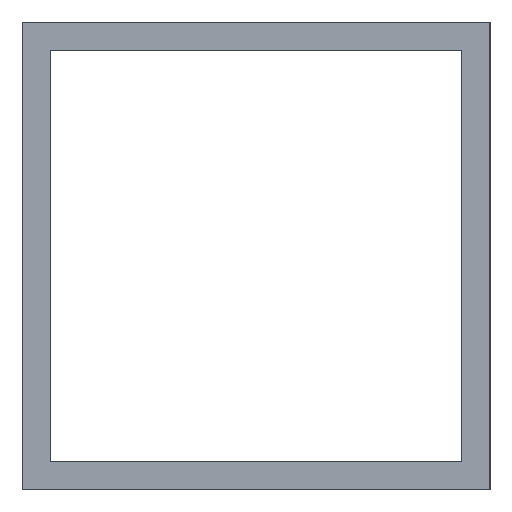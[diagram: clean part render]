
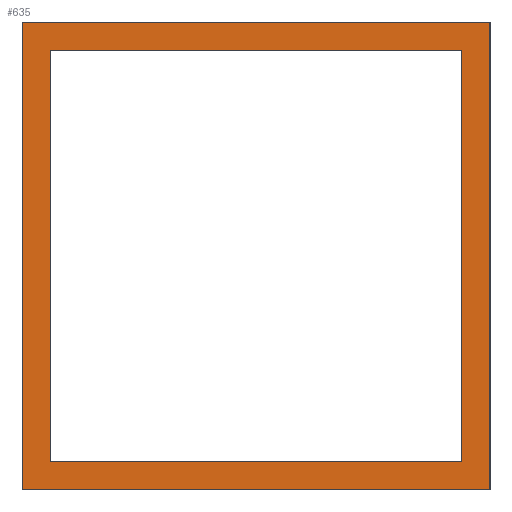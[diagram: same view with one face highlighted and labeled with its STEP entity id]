
A CAD part, left-side view. The second image highlights one B-rep face of the part: STEP entity #635.
In plain terms, the highlighted planar face has unit normal (-1, 0, 0).
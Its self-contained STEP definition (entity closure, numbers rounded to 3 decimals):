
#22 = VERTEX_POINT('',#23);
#23 = CARTESIAN_POINT('',(-800.,-50.,1185.));
#32 = PLANE('',#33);
#33 = AXIS2_PLACEMENT_3D('',#34,#35,#36);
#34 = CARTESIAN_POINT('',(-800.,-50.,1185.));
#35 = DIRECTION('',(0.,0.,1.));
#36 = DIRECTION('',(0.,1.,0.));
#44 = PLANE('',#45);
#45 = AXIS2_PLACEMENT_3D('',#46,#47,#48);
#46 = CARTESIAN_POINT('',(-800.,-50.,1285.));
#47 = DIRECTION('',(-0.,1.,0.));
#48 = DIRECTION('',(0.,0.,-1.));
#85 = VERTEX_POINT('',#86);
#86 = CARTESIAN_POINT('',(-800.,50.,1185.));
#100 = PLANE('',#101);
#101 = AXIS2_PLACEMENT_3D('',#102,#103,#104);
#102 = CARTESIAN_POINT('',(-800.,50.,1185.));
#103 = DIRECTION('',(0.,-1.,0.));
#104 = DIRECTION('',(0.,0.,1.));
#112 = EDGE_CURVE('',#22,#85,#113,.T.);
#113 = SURFACE_CURVE('',#114,(#118,#125),.PCURVE_S1.);
#114 = LINE('',#115,#116);
#115 = CARTESIAN_POINT('',(-800.,-50.,1185.));
#116 = VECTOR('',#117,1.);
#117 = DIRECTION('',(0.,1.,0.));
#118 = PCURVE('',#32,#119);
#119 = DEFINITIONAL_REPRESENTATION('',(#120),#124);
#120 = LINE('',#121,#122);
#121 = CARTESIAN_POINT('',(0.,0.));
#122 = VECTOR('',#123,1.);
#123 = DIRECTION('',(1.,0.));
#124 = ( GEOMETRIC_REPRESENTATION_CONTEXT(2) 
PARAMETRIC_REPRESENTATION_CONTEXT() REPRESENTATION_CONTEXT('2D SPACE',''
  ) );
#125 = PCURVE('',#126,#131);
#126 = PLANE('',#127);
#127 = AXIS2_PLACEMENT_3D('',#128,#129,#130);
#128 = CARTESIAN_POINT('',(-800.,0.,1235.));
#129 = DIRECTION('',(1.,0.,0.));
#130 = DIRECTION('',(-0.,0.,1.));
#131 = DEFINITIONAL_REPRESENTATION('',(#132),#136);
#132 = LINE('',#133,#134);
#133 = CARTESIAN_POINT('',(-50.,50.));
#134 = VECTOR('',#135,1.);
#135 = DIRECTION('',(0.,-1.));
#136 = ( GEOMETRIC_REPRESENTATION_CONTEXT(2) 
PARAMETRIC_REPRESENTATION_CONTEXT() REPRESENTATION_CONTEXT('2D SPACE',''
  ) );
#166 = VERTEX_POINT('',#167);
#167 = CARTESIAN_POINT('',(-800.,50.,1285.));
#181 = PLANE('',#182);
#182 = AXIS2_PLACEMENT_3D('',#183,#184,#185);
#183 = CARTESIAN_POINT('',(-800.,50.,1285.));
#184 = DIRECTION('',(0.,0.,-1.));
#185 = DIRECTION('',(0.,-1.,0.));
#193 = EDGE_CURVE('',#85,#166,#194,.T.);
#194 = SURFACE_CURVE('',#195,(#199,#206),.PCURVE_S1.);
#195 = LINE('',#196,#197);
#196 = CARTESIAN_POINT('',(-800.,50.,1185.));
#197 = VECTOR('',#198,1.);
#198 = DIRECTION('',(0.,0.,1.));
#199 = PCURVE('',#100,#200);
#200 = DEFINITIONAL_REPRESENTATION('',(#201),#205);
#201 = LINE('',#202,#203);
#202 = CARTESIAN_POINT('',(0.,0.));
#203 = VECTOR('',#204,1.);
#204 = DIRECTION('',(1.,0.));
#205 = ( GEOMETRIC_REPRESENTATION_CONTEXT(2) 
PARAMETRIC_REPRESENTATION_CONTEXT() REPRESENTATION_CONTEXT('2D SPACE',''
  ) );
#206 = PCURVE('',#126,#207);
#207 = DEFINITIONAL_REPRESENTATION('',(#208),#212);
#208 = LINE('',#209,#210);
#209 = CARTESIAN_POINT('',(-50.,-50.));
#210 = VECTOR('',#211,1.);
#211 = DIRECTION('',(1.,0.));
#212 = ( GEOMETRIC_REPRESENTATION_CONTEXT(2) 
PARAMETRIC_REPRESENTATION_CONTEXT() REPRESENTATION_CONTEXT('2D SPACE',''
  ) );
#242 = VERTEX_POINT('',#243);
#243 = CARTESIAN_POINT('',(-800.,-50.,1285.));
#264 = EDGE_CURVE('',#166,#242,#265,.T.);
#265 = SURFACE_CURVE('',#266,(#270,#277),.PCURVE_S1.);
#266 = LINE('',#267,#268);
#267 = CARTESIAN_POINT('',(-800.,50.,1285.));
#268 = VECTOR('',#269,1.);
#269 = DIRECTION('',(0.,-1.,0.));
#270 = PCURVE('',#181,#271);
#271 = DEFINITIONAL_REPRESENTATION('',(#272),#276);
#272 = LINE('',#273,#274);
#273 = CARTESIAN_POINT('',(0.,-0.));
#274 = VECTOR('',#275,1.);
#275 = DIRECTION('',(1.,0.));
#276 = ( GEOMETRIC_REPRESENTATION_CONTEXT(2) 
PARAMETRIC_REPRESENTATION_CONTEXT() REPRESENTATION_CONTEXT('2D SPACE',''
  ) );
#277 = PCURVE('',#126,#278);
#278 = DEFINITIONAL_REPRESENTATION('',(#279),#283);
#279 = LINE('',#280,#281);
#280 = CARTESIAN_POINT('',(50.,-50.));
#281 = VECTOR('',#282,1.);
#282 = DIRECTION('',(0.,1.));
#283 = ( GEOMETRIC_REPRESENTATION_CONTEXT(2) 
PARAMETRIC_REPRESENTATION_CONTEXT() REPRESENTATION_CONTEXT('2D SPACE',''
  ) );
#311 = EDGE_CURVE('',#242,#22,#312,.T.);
#312 = SURFACE_CURVE('',#313,(#317,#324),.PCURVE_S1.);
#313 = LINE('',#314,#315);
#314 = CARTESIAN_POINT('',(-800.,-50.,1285.));
#315 = VECTOR('',#316,1.);
#316 = DIRECTION('',(0.,0.,-1.));
#317 = PCURVE('',#44,#318);
#318 = DEFINITIONAL_REPRESENTATION('',(#319),#323);
#319 = LINE('',#320,#321);
#320 = CARTESIAN_POINT('',(0.,0.));
#321 = VECTOR('',#322,1.);
#322 = DIRECTION('',(1.,0.));
#323 = ( GEOMETRIC_REPRESENTATION_CONTEXT(2) 
PARAMETRIC_REPRESENTATION_CONTEXT() REPRESENTATION_CONTEXT('2D SPACE',''
  ) );
#324 = PCURVE('',#126,#325);
#325 = DEFINITIONAL_REPRESENTATION('',(#326),#330);
#326 = LINE('',#327,#328);
#327 = CARTESIAN_POINT('',(50.,50.));
#328 = VECTOR('',#329,1.);
#329 = DIRECTION('',(-1.,0.));
#330 = ( GEOMETRIC_REPRESENTATION_CONTEXT(2) 
PARAMETRIC_REPRESENTATION_CONTEXT() REPRESENTATION_CONTEXT('2D SPACE',''
  ) );
#336 = VERTEX_POINT('',#337);
#337 = CARTESIAN_POINT('',(-800.,-44.,1279.));
#346 = PLANE('',#347);
#347 = AXIS2_PLACEMENT_3D('',#348,#349,#350);
#348 = CARTESIAN_POINT('',(-800.,-44.,1279.));
#349 = DIRECTION('',(-0.,1.,0.));
#350 = DIRECTION('',(0.,0.,-1.));
#358 = PLANE('',#359);
#359 = AXIS2_PLACEMENT_3D('',#360,#361,#362);
#360 = CARTESIAN_POINT('',(-800.,44.,1279.));
#361 = DIRECTION('',(0.,0.,-1.));
#362 = DIRECTION('',(0.,-1.,0.));
#394 = VERTEX_POINT('',#395);
#395 = CARTESIAN_POINT('',(-800.,-44.,1191.));
#409 = PLANE('',#410);
#410 = AXIS2_PLACEMENT_3D('',#411,#412,#413);
#411 = CARTESIAN_POINT('',(-800.,-44.,1191.));
#412 = DIRECTION('',(0.,0.,1.));
#413 = DIRECTION('',(0.,1.,0.));
#421 = EDGE_CURVE('',#336,#394,#422,.T.);
#422 = SURFACE_CURVE('',#423,(#427,#434),.PCURVE_S1.);
#423 = LINE('',#424,#425);
#424 = CARTESIAN_POINT('',(-800.,-44.,1279.));
#425 = VECTOR('',#426,1.);
#426 = DIRECTION('',(0.,0.,-1.));
#427 = PCURVE('',#346,#428);
#428 = DEFINITIONAL_REPRESENTATION('',(#429),#433);
#429 = LINE('',#430,#431);
#430 = CARTESIAN_POINT('',(0.,0.));
#431 = VECTOR('',#432,1.);
#432 = DIRECTION('',(1.,0.));
#433 = ( GEOMETRIC_REPRESENTATION_CONTEXT(2) 
PARAMETRIC_REPRESENTATION_CONTEXT() REPRESENTATION_CONTEXT('2D SPACE',''
  ) );
#434 = PCURVE('',#126,#435);
#435 = DEFINITIONAL_REPRESENTATION('',(#436),#440);
#436 = LINE('',#437,#438);
#437 = CARTESIAN_POINT('',(44.,44.));
#438 = VECTOR('',#439,1.);
#439 = DIRECTION('',(-1.,0.));
#440 = ( GEOMETRIC_REPRESENTATION_CONTEXT(2) 
PARAMETRIC_REPRESENTATION_CONTEXT() REPRESENTATION_CONTEXT('2D SPACE',''
  ) );
#446 = VERTEX_POINT('',#447);
#447 = CARTESIAN_POINT('',(-800.,44.,1279.));
#463 = PLANE('',#464);
#464 = AXIS2_PLACEMENT_3D('',#465,#466,#467);
#465 = CARTESIAN_POINT('',(-800.,44.,1191.));
#466 = DIRECTION('',(0.,-1.,0.));
#467 = DIRECTION('',(0.,0.,1.));
#497 = EDGE_CURVE('',#446,#336,#498,.T.);
#498 = SURFACE_CURVE('',#499,(#503,#510),.PCURVE_S1.);
#499 = LINE('',#500,#501);
#500 = CARTESIAN_POINT('',(-800.,44.,1279.));
#501 = VECTOR('',#502,1.);
#502 = DIRECTION('',(0.,-1.,0.));
#503 = PCURVE('',#358,#504);
#504 = DEFINITIONAL_REPRESENTATION('',(#505),#509);
#505 = LINE('',#506,#507);
#506 = CARTESIAN_POINT('',(0.,-0.));
#507 = VECTOR('',#508,1.);
#508 = DIRECTION('',(1.,0.));
#509 = ( GEOMETRIC_REPRESENTATION_CONTEXT(2) 
PARAMETRIC_REPRESENTATION_CONTEXT() REPRESENTATION_CONTEXT('2D SPACE',''
  ) );
#510 = PCURVE('',#126,#511);
#511 = DEFINITIONAL_REPRESENTATION('',(#512),#516);
#512 = LINE('',#513,#514);
#513 = CARTESIAN_POINT('',(44.,-44.));
#514 = VECTOR('',#515,1.);
#515 = DIRECTION('',(0.,1.));
#516 = ( GEOMETRIC_REPRESENTATION_CONTEXT(2) 
PARAMETRIC_REPRESENTATION_CONTEXT() REPRESENTATION_CONTEXT('2D SPACE',''
  ) );
#522 = VERTEX_POINT('',#523);
#523 = CARTESIAN_POINT('',(-800.,44.,1191.));
#568 = EDGE_CURVE('',#522,#446,#569,.T.);
#569 = SURFACE_CURVE('',#570,(#574,#581),.PCURVE_S1.);
#570 = LINE('',#571,#572);
#571 = CARTESIAN_POINT('',(-800.,44.,1191.));
#572 = VECTOR('',#573,1.);
#573 = DIRECTION('',(0.,0.,1.));
#574 = PCURVE('',#463,#575);
#575 = DEFINITIONAL_REPRESENTATION('',(#576),#580);
#576 = LINE('',#577,#578);
#577 = CARTESIAN_POINT('',(0.,0.));
#578 = VECTOR('',#579,1.);
#579 = DIRECTION('',(1.,0.));
#580 = ( GEOMETRIC_REPRESENTATION_CONTEXT(2) 
PARAMETRIC_REPRESENTATION_CONTEXT() REPRESENTATION_CONTEXT('2D SPACE',''
  ) );
#581 = PCURVE('',#126,#582);
#582 = DEFINITIONAL_REPRESENTATION('',(#583),#587);
#583 = LINE('',#584,#585);
#584 = CARTESIAN_POINT('',(-44.,-44.));
#585 = VECTOR('',#586,1.);
#586 = DIRECTION('',(1.,0.));
#587 = ( GEOMETRIC_REPRESENTATION_CONTEXT(2) 
PARAMETRIC_REPRESENTATION_CONTEXT() REPRESENTATION_CONTEXT('2D SPACE',''
  ) );
#615 = EDGE_CURVE('',#394,#522,#616,.T.);
#616 = SURFACE_CURVE('',#617,(#621,#628),.PCURVE_S1.);
#617 = LINE('',#618,#619);
#618 = CARTESIAN_POINT('',(-800.,-44.,1191.));
#619 = VECTOR('',#620,1.);
#620 = DIRECTION('',(0.,1.,0.));
#621 = PCURVE('',#409,#622);
#622 = DEFINITIONAL_REPRESENTATION('',(#623),#627);
#623 = LINE('',#624,#625);
#624 = CARTESIAN_POINT('',(0.,0.));
#625 = VECTOR('',#626,1.);
#626 = DIRECTION('',(1.,0.));
#627 = ( GEOMETRIC_REPRESENTATION_CONTEXT(2) 
PARAMETRIC_REPRESENTATION_CONTEXT() REPRESENTATION_CONTEXT('2D SPACE',''
  ) );
#628 = PCURVE('',#126,#629);
#629 = DEFINITIONAL_REPRESENTATION('',(#630),#634);
#630 = LINE('',#631,#632);
#631 = CARTESIAN_POINT('',(-44.,44.));
#632 = VECTOR('',#633,1.);
#633 = DIRECTION('',(0.,-1.));
#634 = ( GEOMETRIC_REPRESENTATION_CONTEXT(2) 
PARAMETRIC_REPRESENTATION_CONTEXT() REPRESENTATION_CONTEXT('2D SPACE',''
  ) );
#635 = ADVANCED_FACE('',(#636,#642),#126,.F.);
#636 = FACE_BOUND('',#637,.F.);
#637 = EDGE_LOOP('',(#638,#639,#640,#641));
#638 = ORIENTED_EDGE('',*,*,#112,.T.);
#639 = ORIENTED_EDGE('',*,*,#193,.T.);
#640 = ORIENTED_EDGE('',*,*,#264,.T.);
#641 = ORIENTED_EDGE('',*,*,#311,.T.);
#642 = FACE_BOUND('',#643,.F.);
#643 = EDGE_LOOP('',(#644,#645,#646,#647));
#644 = ORIENTED_EDGE('',*,*,#421,.F.);
#645 = ORIENTED_EDGE('',*,*,#497,.F.);
#646 = ORIENTED_EDGE('',*,*,#568,.F.);
#647 = ORIENTED_EDGE('',*,*,#615,.F.);
